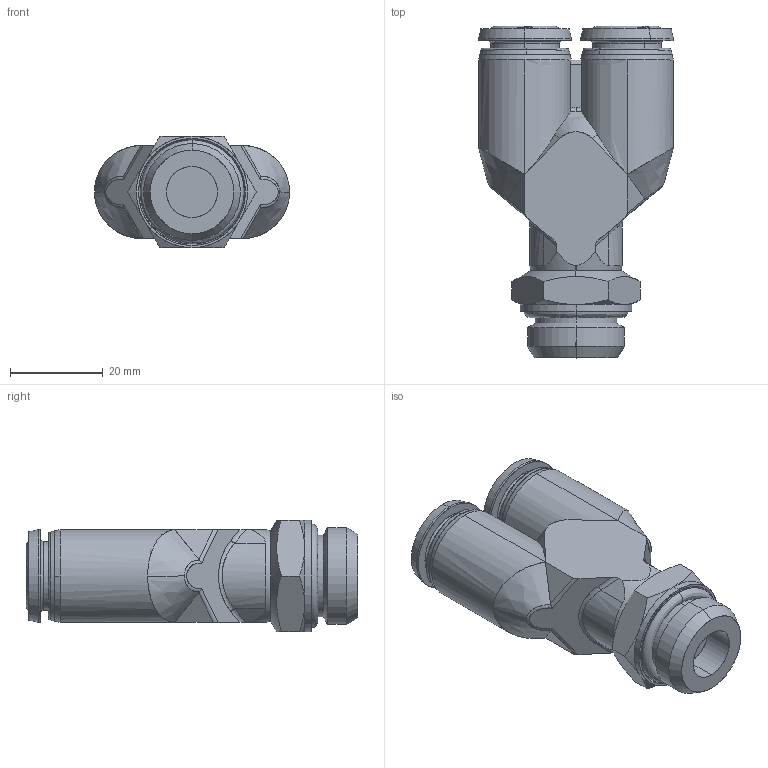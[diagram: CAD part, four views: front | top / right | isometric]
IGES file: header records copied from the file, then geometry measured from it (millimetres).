
Start section: SolidWorks IGES file using analytic representation for surfaces
Global section: file name: K:\Disegni Esecutivi\Serie 55000\ASSIEMI_55000\55325\ASSIEMI_PIENI_55325\5532500015.IGS; native system: SolidWorks 2007; preprocessor: SolidWorks 2007; author: cad02; date: 071129.083253; units: millimetre
Bounding box: 42 x 71.5 x 24 mm (x, y, z)
Surface area: 10072.9 mm2 (no closed solid volume)
Topology: 0 solids, 0 shells, 287 faces, 3417 edges, 3417 vertices
Faces by surface type: bspline 181, revolution 106
